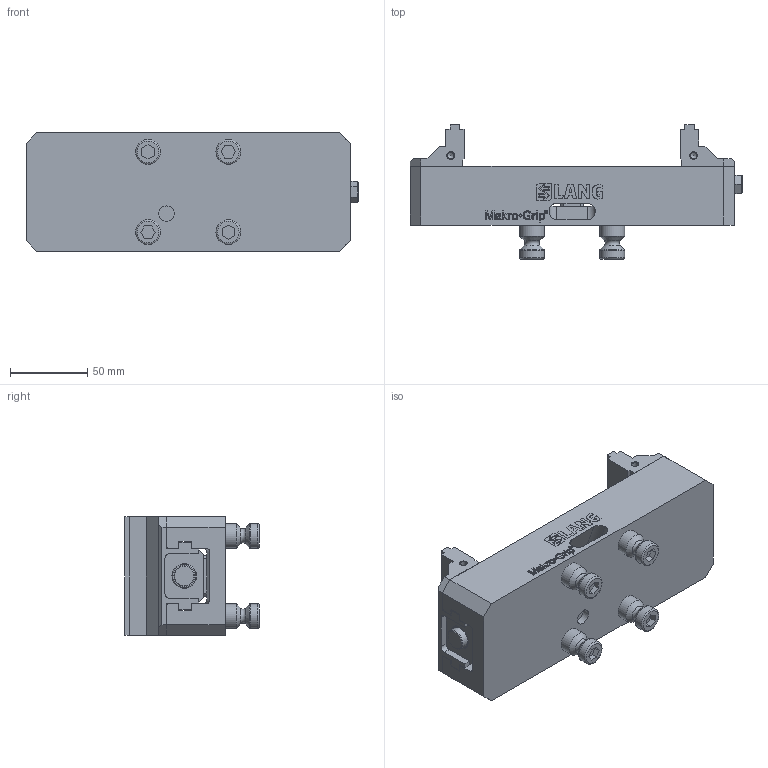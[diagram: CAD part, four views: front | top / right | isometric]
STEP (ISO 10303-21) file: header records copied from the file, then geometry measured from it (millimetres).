
FILE_DESCRIPTION (( 'STEP AP214' ), '1' );
FILE_NAME ('48200-77.STEP', '2020-02-04T13:58:35', ( '' ), ( '' ), 'SwSTEP 2.0', 'SolidWorks 2019', '' );
FILE_SCHEMA (( 'AUTOMOTIVE_DESIGN' ));
Length unit declared in the file: millimetre
Products named in the file (3): Makro-Grip_48200-77; 48077-7720; 48200-77
Assembly tree (3 placements, depth 2):
  48200-77
    Makro-Grip_48200-77
    48077-7720  x2
Bounding box: 215.03 x 87 x 77.2 mm (x, y, z)
Volume: 547767.8 mm3; surface area: 123638.5 mm2
Topology: 50 solids, 50 shells, 914 faces, 2322 edges, 1525 vertices
Faces by surface type: plane 625, bspline 192, cylinder 58, cone 27, torus 12
Full cylindrical faces by diameter (mm): 4.2 x4, 6.8 x4, 10 x1, 12 x8, 13.5 x1, 16 x12
Entity records: 42800 total; most frequent: CARTESIAN_POINT 13887, ORIENTED_EDGE 4172, DIRECTION 3105, EDGE_CURVE 2086, VECTOR 1571, LINE 1571, VERTEX_POINT 1409, EDGE_LOOP 963
